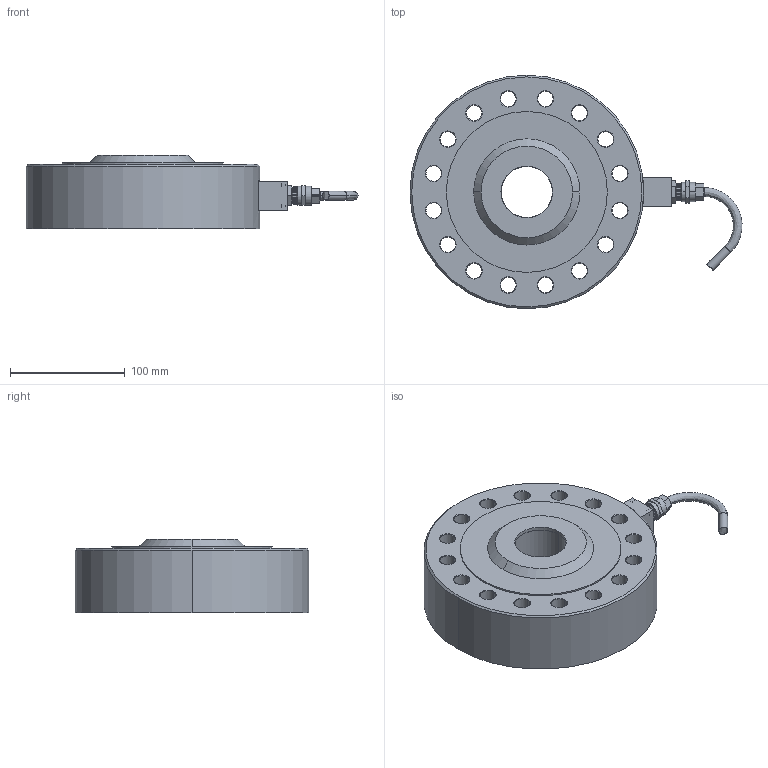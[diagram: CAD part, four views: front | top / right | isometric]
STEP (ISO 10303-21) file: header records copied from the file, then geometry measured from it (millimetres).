
FILE_DESCRIPTION (( 'STEP AP203' ), '1' );
FILE_NAME ('Interface 3232-100K.STEP', '2012-06-05T15:33:17', ( ' ' ), ( '' ), 'SwSTEP 2.0', 'SolidWorks 2002349', '' );
FILE_SCHEMA (( 'CONFIG_CONTROL_DESIGN' ));
Length unit declared in the file: inch
Products named in the file (1): Interface 3232-100K
Bounding box: 288.74 x 203.15 x 63.5 mm (x, y, z)
Volume: 1650941.1 mm3; surface area: 148332.9 mm2
Topology: 1 solids, 1 shells, 229 faces, 541 edges, 338 vertices
Faces by surface type: plane 88, cylinder 72, cone 58, bspline 11
Entity records: 6925 total; most frequent: CARTESIAN_POINT 1403, DIRECTION 1183, ORIENTED_EDGE 1082, EDGE_CURVE 541, AXIS2_PLACEMENT_3D 442, VERTEX_POINT 338, LINE 299, VECTOR 299
